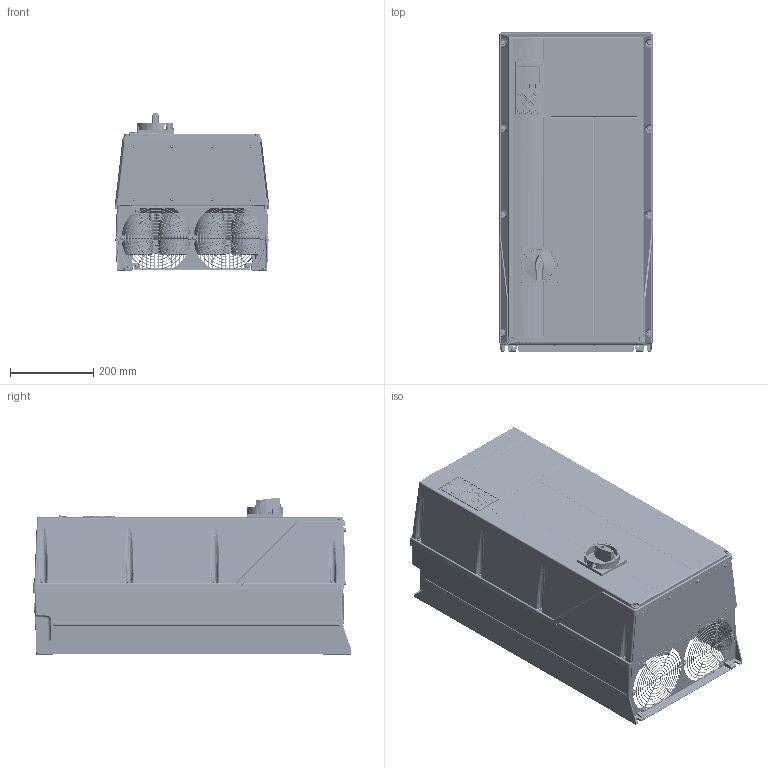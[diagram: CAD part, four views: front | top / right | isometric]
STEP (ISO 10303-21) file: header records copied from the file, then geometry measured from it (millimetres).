
FILE_DESCRIPTION((''),'2;1');
FILE_NAME('DANFOSS-FC100-C2-SWITCH','2011-10-17T',('cstephenkumar'),('Be-Atch INC. 1993'),'PRO/ENGINEER BY PARAMETRIC TECHNOLOGY CORPORATION, 2009360','PRO/ENGINEER BY PARAMETRIC TECHNOLOGY CORPORATION, 2009360','');
FILE_SCHEMA(('AUTOMOTIVE_DESIGN { 1 0 10303 214 1 1 1 1 }'));
Products named in the file (1): DANFOSS-FC100-C2-SWITCH
Bounding box: 371.37 x 767.48 x 378.22 mm (x, y, z)
Volume: 65935897.7 mm3; surface area: 4248044.5 mm2
Topology: 1 solids, 78 shells, 7532 faces, 19280 edges, 11790 vertices
Faces by surface type: cylinder 2667, plane 2067, bspline 1311, cone 743, torus 672, sphere 72
Entity records: 340549 total; most frequent: CARTESIAN_POINT 166642, ORIENTED_EDGE 38096, DIRECTION 31851, EDGE_CURVE 19048, AXIS2_PLACEMENT_3D 11977, VERTEX_POINT 11790, EDGE_LOOP 7906, VECTOR 7897
